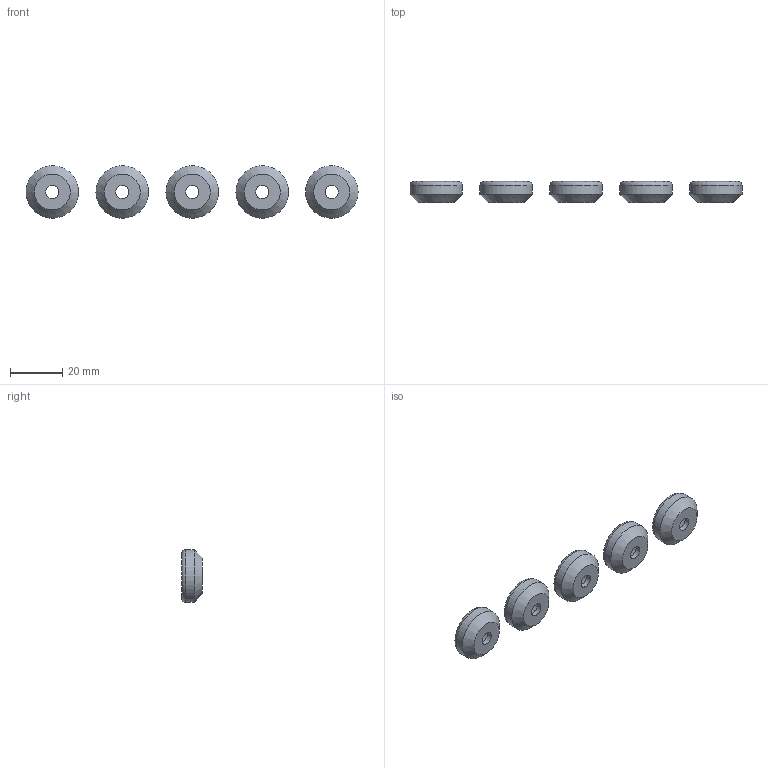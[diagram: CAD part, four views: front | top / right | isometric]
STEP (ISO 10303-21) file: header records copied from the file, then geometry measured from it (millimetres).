
FILE_DESCRIPTION(/* description */ (''),/* implementation_level */ '2;1');
FILE_NAME(/* name */ 'Discs.step',/* time_stamp */ '2023-07-06T13:19:48+02:00',/* author */ (''),/* organization */ (''),/* preprocessor_version */ 'ST-DEVELOPER v19.2',/* originating_system */ 'Autodesk Translation Framework v12.6.0.85',/* authorisation */ '');
FILE_SCHEMA (('AUTOMOTIVE_DESIGN { 1 0 10303 214 3 1 1 }'));
Length unit declared in the file: millimetre
Products named in the file (1): (Unsaved)
Bounding box: 126.5 x 8 x 20 mm (x, y, z)
Volume: 5847.8 mm3; surface area: 5671.7 mm2
Topology: 5 solids, 5 shells, 45 faces, 90 edges, 55 vertices
Faces by surface type: cylinder 15, cone 15, plane 10, torus 5
Full cylindrical faces by diameter (mm): 5 x5, 16 x5, 20 x5
Entity records: 1275 total; most frequent: DIRECTION 242, CARTESIAN_POINT 191, ORIENTED_EDGE 180, AXIS2_PLACEMENT_3D 106, EDGE_CURVE 90, CIRCLE 60, EDGE_LOOP 55, VERTEX_POINT 55
